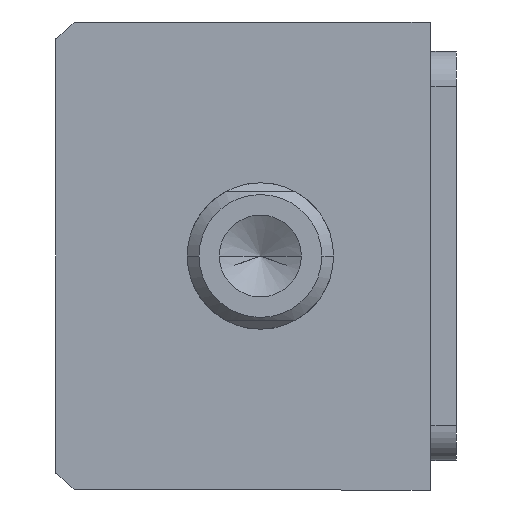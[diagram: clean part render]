
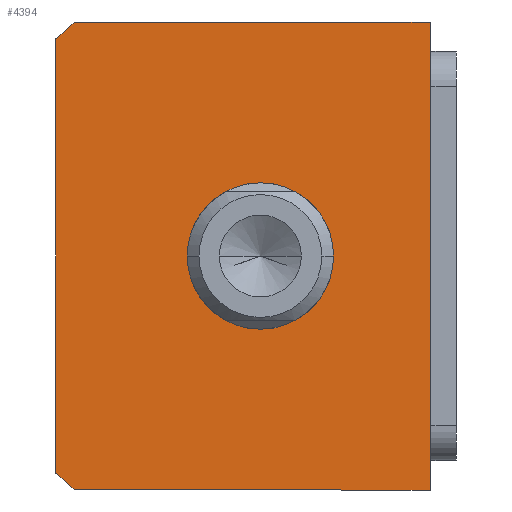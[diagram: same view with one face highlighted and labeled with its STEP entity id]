
A CAD part, front view. The second image highlights one B-rep face of the part: STEP entity #4394.
In plain terms, the highlighted planar face has unit normal (0, -1, 0) as drawn and (0, 0, -1) by its records, which use the part's own axes.
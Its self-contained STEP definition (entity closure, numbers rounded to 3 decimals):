
#125 = CIRCLE ( 'NONE', #10248, 51. ) ;
#405 = LINE ( 'NONE', #2948, #4455 ) ;
#542 = VERTEX_POINT ( 'NONE', #5466 ) ;
#576 = DIRECTION ( 'NONE',  ( -1., 0., 0. ) ) ;
#701 = EDGE_CURVE ( 'NONE', #3736, #2452, #125, .T. ) ;
#1047 = CARTESIAN_POINT ( 'NONE',  ( -40., -11.507, 0. ) ) ;
#1138 = CIRCLE ( 'NONE', #3614, 12.5 ) ;
#1409 = DIRECTION ( 'NONE',  ( 0., 0., 1. ) ) ;
#1435 = FACE_BOUND ( 'NONE', #2816, .T. ) ;
#1493 = EDGE_CURVE ( 'NONE', #7866, #1852, #1138, .T. ) ;
#1852 = VERTEX_POINT ( 'NONE', #3710 ) ;
#1898 = CIRCLE ( 'NONE', #5473, 12.5 ) ;
#1998 = CARTESIAN_POINT ( 'NONE',  ( 0., 0., 0. ) ) ;
#2143 = AXIS2_PLACEMENT_3D ( 'NONE', #1998, #2833, #8484 ) ;
#2438 = VERTEX_POINT ( 'NONE', #8003 ) ;
#2452 = VERTEX_POINT ( 'NONE', #8045 ) ;
#2562 = VERTEX_POINT ( 'NONE', #10456 ) ;
#2606 = ORIENTED_EDGE ( 'NONE', *, *, #6124, .F. ) ;
#2816 = EDGE_LOOP ( 'NONE', ( #10038, #8880 ) ) ;
#2833 = DIRECTION ( 'NONE',  ( 0., 0., 1. ) ) ;
#2837 = EDGE_LOOP ( 'NONE', ( #3063, #6013, #5983, #6194, #4830, #2606 ) ) ;
#2930 = CARTESIAN_POINT ( 'NONE',  ( 37.094, -75.507, 0. ) ) ;
#2948 = CARTESIAN_POINT ( 'NONE',  ( -40., -75.507, 0. ) ) ;
#3063 = ORIENTED_EDGE ( 'NONE', *, *, #4013, .F. ) ;
#3082 = CARTESIAN_POINT ( 'NONE',  ( 0., -40.507, 0. ) ) ;
#3180 = DIRECTION ( 'NONE',  ( 1., 0., 0. ) ) ;
#3205 = DIRECTION ( 'NONE',  ( 0., 0., 1. ) ) ;
#3301 = EDGE_CURVE ( 'NONE', #1852, #7866, #1898, .T. ) ;
#3614 = AXIS2_PLACEMENT_3D ( 'NONE', #8094, #8028, #7990 ) ;
#3710 = CARTESIAN_POINT ( 'NONE',  ( -12.5, -40.507, 0. ) ) ;
#3736 = VERTEX_POINT ( 'NONE', #2930 ) ;
#3906 = DIRECTION ( 'NONE',  ( 0., 0., 1. ) ) ;
#4000 = AXIS2_PLACEMENT_3D ( 'NONE', #8757, #3906, #9599 ) ;
#4013 = EDGE_CURVE ( 'NONE', #2562, #4315, #8389, .T. ) ;
#4240 = DIRECTION ( 'NONE',  ( 0., -1., 0. ) ) ;
#4315 = VERTEX_POINT ( 'NONE', #9850 ) ;
#4394 = ADVANCED_FACE ( 'NONE', ( #1435, #9038 ), #7673, .F. ) ;
#4455 = VECTOR ( 'NONE', #6959, 1000. ) ;
#4830 = ORIENTED_EDGE ( 'NONE', *, *, #701, .F. ) ;
#4842 = VECTOR ( 'NONE', #576, 1000. ) ;
#4886 = EDGE_CURVE ( 'NONE', #2438, #542, #6992, .T. ) ;
#5203 = LINE ( 'NONE', #6466, #7119 ) ;
#5462 = EDGE_CURVE ( 'NONE', #2452, #2438, #5203, .T. ) ;
#5466 = CARTESIAN_POINT ( 'NONE',  ( -40., -11.507, 0. ) ) ;
#5473 = AXIS2_PLACEMENT_3D ( 'NONE', #6247, #1409, #7071 ) ;
#5983 = ORIENTED_EDGE ( 'NONE', *, *, #4886, .F. ) ;
#6013 = ORIENTED_EDGE ( 'NONE', *, *, #7804, .F. ) ;
#6124 = EDGE_CURVE ( 'NONE', #4315, #3736, #405, .T. ) ;
#6194 = ORIENTED_EDGE ( 'NONE', *, *, #5462, .F. ) ;
#6247 = CARTESIAN_POINT ( 'NONE',  ( 0., -40.507, 0. ) ) ;
#6466 = CARTESIAN_POINT ( 'NONE',  ( 40., -11.507, 0. ) ) ;
#6959 = DIRECTION ( 'NONE',  ( 1., 0., 0. ) ) ;
#6992 = LINE ( 'NONE', #8940, #4842 ) ;
#7071 = DIRECTION ( 'NONE',  ( 1., 0., 0. ) ) ;
#7119 = VECTOR ( 'NONE', #8900, 1000. ) ;
#7284 = VECTOR ( 'NONE', #4240, 1000. ) ;
#7517 = LINE ( 'NONE', #1047, #7284 ) ;
#7588 = CARTESIAN_POINT ( 'NONE',  ( 12.5, -40.507, 0. ) ) ;
#7673 = PLANE ( 'NONE',  #2143 ) ;
#7804 = EDGE_CURVE ( 'NONE', #542, #2562, #7517, .T. ) ;
#7866 = VERTEX_POINT ( 'NONE', #7588 ) ;
#7990 = DIRECTION ( 'NONE',  ( 1., 0., 0. ) ) ;
#8003 = CARTESIAN_POINT ( 'NONE',  ( 40., -11.507, 0. ) ) ;
#8028 = DIRECTION ( 'NONE',  ( 0., 0., 1. ) ) ;
#8045 = CARTESIAN_POINT ( 'NONE',  ( 40., -72.145, 0. ) ) ;
#8094 = CARTESIAN_POINT ( 'NONE',  ( 0., -40.507, 0. ) ) ;
#8389 = CIRCLE ( 'NONE', #4000, 51. ) ;
#8484 = DIRECTION ( 'NONE',  ( 1., 0., 0. ) ) ;
#8757 = CARTESIAN_POINT ( 'NONE',  ( 0., -40.507, 0. ) ) ;
#8880 = ORIENTED_EDGE ( 'NONE', *, *, #3301, .T. ) ;
#8900 = DIRECTION ( 'NONE',  ( 0., 1., 0. ) ) ;
#8940 = CARTESIAN_POINT ( 'NONE',  ( -40., -11.507, 0. ) ) ;
#9038 = FACE_OUTER_BOUND ( 'NONE', #2837, .T. ) ;
#9599 = DIRECTION ( 'NONE',  ( 1., 0., 0. ) ) ;
#9850 = CARTESIAN_POINT ( 'NONE',  ( -37.094, -75.507, 0. ) ) ;
#10038 = ORIENTED_EDGE ( 'NONE', *, *, #1493, .T. ) ;
#10248 = AXIS2_PLACEMENT_3D ( 'NONE', #3082, #3205, #3180 ) ;
#10456 = CARTESIAN_POINT ( 'NONE',  ( -40., -72.145, 0. ) ) ;
